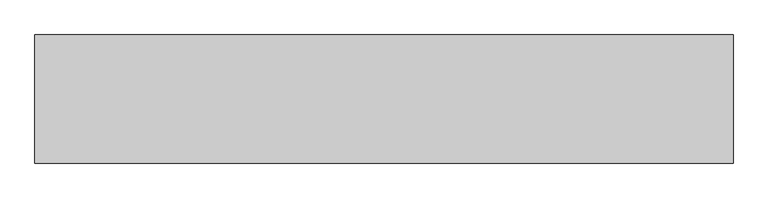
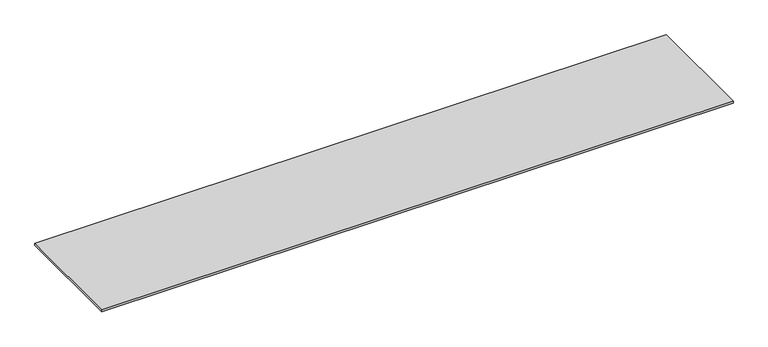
"""IFC4 building model written with IfcOpenShell, lengths in millimetres: beam geometry, Base_cover_Config-6 : Base_cover_Config-6."""

from ifc_helpers import new_model, si_unit, frame, origin, place, context, project, spatial, polyline, outline, extrude, source, transform, mapped, element, save


def beam_16bb976f(model_context):
    return source(origin(), model_context, "Body", "SweptSolid", [
        extrude(outline(polyline([(8931.5, 1076.5), (8931.5, -1076.5), (-2796.5, -1076.5), (-2796.5, 1076.5), (8931.5, 1076.5)])), frame((0.0, 0.0, 384.0), z_axis=(0.0, 0.0, 1.0), x_axis=(1.0, 0.0, 0.0)), (0.0, 0.0, 1.0), 40.0),
    ])


if __name__ == "__main__":
    model = new_model("IFC4")
    model_context = context("Model", 3, world=origin())
    ifc_project = project(units=[si_unit("LENGTHUNIT", "METRE", prefix="MILLI")], contexts=[model_context])
    site = spatial("IfcSite", under=ifc_project)
    building = spatial("IfcBuilding", under=site)
    placement = place(None, origin())
    beam_shape = beam_16bb976f(model_context)
    element("IfcBeam", 1, ObjectType="Base_cover_Config-6 : Base_cover_Config-6", at=placement, inside=building, context=model_context, shape_type="MappedRepresentation", body=[
        mapped(beam_shape, transform((0.0, 0.0, 0.0), x_axis=(1.0, 0.0, 0.0), y_axis=(0.0, 1.0, 0.0), z_axis=(0.0, 0.0, 1.0))),
    ])
    save(model, "model.ifc")
